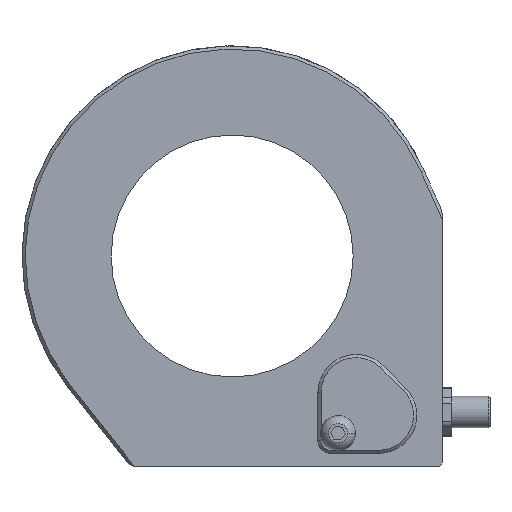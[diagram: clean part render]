
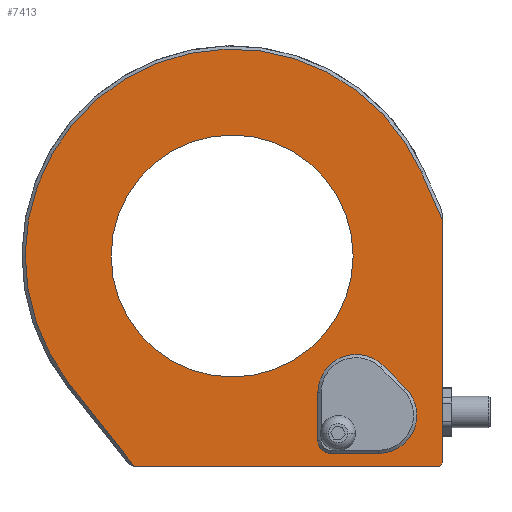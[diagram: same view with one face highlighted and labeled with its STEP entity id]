
A CAD part, left-side view. The second image highlights one B-rep face of the part: STEP entity #7413.
In plain terms, the highlighted planar face has unit normal (-1, 0, 0).
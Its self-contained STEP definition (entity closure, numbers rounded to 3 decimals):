
#92 = CARTESIAN_POINT ( 'NONE',  ( 21.697, -16.411, -31.812 ) ) ;
#102 = DIRECTION ( 'NONE',  ( 0., 0., -1. ) ) ;
#103 = VECTOR ( 'NONE', #102, 1000. ) ;
#104 = CARTESIAN_POINT ( 'NONE',  ( 21.697, -32.775, -7.52 ) ) ;
#105 = LINE ( 'NONE', #104, #103 ) ;
#135 = CARTESIAN_POINT ( 'NONE',  ( 21.697, -32.775, -1.752 ) ) ;
#136 = DIRECTION ( 'NONE',  ( 0., -0.406, -0.914 ) ) ;
#137 = VECTOR ( 'NONE', #136, 1000. ) ;
#138 = CARTESIAN_POINT ( 'NONE',  ( 21.697, -29.476, 5.674 ) ) ;
#139 = LINE ( 'NONE', #138, #137 ) ;
#140 = CARTESIAN_POINT ( 'NONE',  ( 21.697, -29.476, 5.674 ) ) ;
#185 = CARTESIAN_POINT ( 'NONE',  ( 21.697, 25.742, -27.648 ) ) ;
#186 = DIRECTION ( 'NONE',  ( 0., 0.619, 0.785 ) ) ;
#187 = VECTOR ( 'NONE', #186, 1000. ) ;
#208 = CARTESIAN_POINT ( 'NONE',  ( 21.697, 15.588, -40.52 ) ) ;
#209 = LINE ( 'NONE', #208, #187 ) ;
#224 = DIRECTION ( 'NONE',  ( 0., 1., 0. ) ) ;
#225 = DIRECTION ( 'NONE',  ( -1., 0., 0. ) ) ;
#226 = CARTESIAN_POINT ( 'NONE',  ( 21.697, -19.24, -28.984 ) ) ;
#227 = AXIS2_PLACEMENT_3D ( 'NONE', #226, #225, #224 ) ;
#233 = CIRCLE ( 'NONE', #227, 4. ) ;
#246 = DIRECTION ( 'NONE',  ( 0., 0., -1. ) ) ;
#247 = DIRECTION ( 'NONE',  ( 1., 0., 0. ) ) ;
#248 = CARTESIAN_POINT ( 'NONE',  ( 21.697, 0.225, -7.52 ) ) ;
#249 = AXIS2_PLACEMENT_3D ( 'NONE', #248, #247, #246 ) ;
#305 = CIRCLE ( 'NONE', #249, 32.5 ) ;
#400 = FACE_BOUND ( 'NONE', #7519, .T. ) ;
#401 = FACE_BOUND ( 'NONE', #7408, .T. ) ;
#402 = FACE_OUTER_BOUND ( 'NONE', #7542, .T. ) ;
#447 = DIRECTION ( 'NONE',  ( 0., 1., 0. ) ) ;
#448 = DIRECTION ( 'NONE',  ( 1., 0., 0. ) ) ;
#449 = CARTESIAN_POINT ( 'NONE',  ( 21.697, 0.225, -7.52 ) ) ;
#450 = AXIS2_PLACEMENT_3D ( 'NONE', #449, #448, #447 ) ;
#452 = PLANE ( 'NONE',  #450 ) ;
#542 = FACE_BOUND ( 'NONE', #7541, .T. ) ;
#1003 = DIRECTION ( 'NONE',  ( 0., 1., 0. ) ) ;
#1004 = VECTOR ( 'NONE', #1003, 1000. ) ;
#1005 = CARTESIAN_POINT ( 'NONE',  ( 21.697, 0.225, -40.52 ) ) ;
#1006 = LINE ( 'NONE', #1005, #1004 ) ;
#1143 = CARTESIAN_POINT ( 'NONE',  ( 21.697, 15.588, -40.52 ) ) ;
#1627 = DIRECTION ( 'NONE',  ( 0., -1., 0. ) ) ;
#1628 = DIRECTION ( 'NONE',  ( -1., 0., 0. ) ) ;
#1629 = CARTESIAN_POINT ( 'NONE',  ( 21.697, -16.411, -35.348 ) ) ;
#1630 = AXIS2_PLACEMENT_3D ( 'NONE', #1629, #1628, #1627 ) ;
#1631 = CIRCLE ( 'NONE', #1630, 1.23 ) ;
#1683 = DIRECTION ( 'NONE',  ( 0., 0., -1. ) ) ;
#1684 = DIRECTION ( 'NONE',  ( -1., 0., 0. ) ) ;
#1685 = CARTESIAN_POINT ( 'NONE',  ( 21.697, 0.225, -7.52 ) ) ;
#1686 = AXIS2_PLACEMENT_3D ( 'NONE', #1685, #1684, #1683 ) ;
#1687 = CIRCLE ( 'NONE', #1686, 19. ) ;
#3708 = CARTESIAN_POINT ( 'NONE',  ( 21.697, -15.24, -28.984 ) ) ;
#3709 = CARTESIAN_POINT ( 'NONE',  ( 21.697, -22.068, -26.156 ) ) ;
#3710 = DIRECTION ( 'NONE',  ( 0., 1., 0. ) ) ;
#3711 = DIRECTION ( 'NONE',  ( -1., 0., 0. ) ) ;
#3712 = CARTESIAN_POINT ( 'NONE',  ( 21.697, -19.24, -28.984 ) ) ;
#3713 = AXIS2_PLACEMENT_3D ( 'NONE', #3712, #3711, #3710 ) ;
#3718 = CIRCLE ( 'NONE', #3713, 4. ) ;
#4445 = DIRECTION ( 'NONE',  ( 0., -1., 0. ) ) ;
#4446 = DIRECTION ( 'NONE',  ( -1., 0., 0. ) ) ;
#4447 = CARTESIAN_POINT ( 'NONE',  ( 21.697, -16.411, -35.348 ) ) ;
#4448 = AXIS2_PLACEMENT_3D ( 'NONE', #4447, #4446, #4445 ) ;
#4449 = CIRCLE ( 'NONE', #4448, 1.23 ) ;
#4655 = CARTESIAN_POINT ( 'NONE',  ( 21.697, -15.181, -35.348 ) ) ;
#4821 = DIRECTION ( 'NONE',  ( 0., 0., -1. ) ) ;
#4822 = DIRECTION ( 'NONE',  ( -1., 0., 0. ) ) ;
#4823 = CARTESIAN_POINT ( 'NONE',  ( 21.697, 0.225, -7.52 ) ) ;
#4824 = AXIS2_PLACEMENT_3D ( 'NONE', #4823, #4822, #4821 ) ;
#4825 = CIRCLE ( 'NONE', #4824, 19. ) ;
#4849 = CARTESIAN_POINT ( 'NONE',  ( 21.697, -17.64, -35.348 ) ) ;
#5065 = CARTESIAN_POINT ( 'NONE',  ( 21.697, 0.225, 11.48 ) ) ;
#5140 = VERTEX_POINT ( 'NONE', #7888 ) ;
#5175 = EDGE_CURVE ( 'NONE', #5176, #5140, #8006, .T. ) ;
#5176 = VERTEX_POINT ( 'NONE', #8002 ) ;
#6252 = EDGE_CURVE ( 'NONE', #6253, #6254, #3718, .T. ) ;
#6253 = VERTEX_POINT ( 'NONE', #3709 ) ;
#6254 = VERTEX_POINT ( 'NONE', #3708 ) ;
#6502 = EDGE_CURVE ( 'NONE', #6560, #6561, #4449, .T. ) ;
#6560 = VERTEX_POINT ( 'NONE', #4655 ) ;
#6561 = VERTEX_POINT ( 'NONE', #4849 ) ;
#6574 = EDGE_CURVE ( 'NONE', #6696, #6625, #4825, .T. ) ;
#6625 = VERTEX_POINT ( 'NONE', #5065 ) ;
#6696 = VERTEX_POINT ( 'NONE', #10124 ) ;
#7002 = VERTEX_POINT ( 'NONE', #1143 ) ;
#7008 = EDGE_CURVE ( 'NONE', #5176, #7002, #1006, .T. ) ;
#7243 = EDGE_CURVE ( 'NONE', #6561, #6560, #1631, .T. ) ;
#7248 = EDGE_CURVE ( 'NONE', #6625, #6696, #1687, .T. ) ;
#7302 = VERTEX_POINT ( 'NONE', #140 ) ;
#7304 = EDGE_CURVE ( 'NONE', #7302, #7305, #139, .T. ) ;
#7305 = VERTEX_POINT ( 'NONE', #135 ) ;
#7322 = EDGE_CURVE ( 'NONE', #7305, #5140, #105, .T. ) ;
#7337 = VERTEX_POINT ( 'NONE', #92 ) ;
#7345 = EDGE_CURVE ( 'NONE', #7002, #7346, #209, .T. ) ;
#7346 = VERTEX_POINT ( 'NONE', #185 ) ;
#7357 = EDGE_CURVE ( 'NONE', #7346, #7302, #305, .T. ) ;
#7383 = EDGE_CURVE ( 'NONE', #6254, #7337, #233, .T. ) ;
#7390 = ORIENTED_EDGE ( 'NONE', *, *, #7322, .F. ) ;
#7398 = ORIENTED_EDGE ( 'NONE', *, *, #7345, .F. ) ;
#7399 = ORIENTED_EDGE ( 'NONE', *, *, #6574, .F. ) ;
#7400 = ORIENTED_EDGE ( 'NONE', *, *, #7248, .F. ) ;
#7407 = ORIENTED_EDGE ( 'NONE', *, *, #7304, .F. ) ;
#7408 = EDGE_LOOP ( 'NONE', ( #7399, #7400 ) ) ;
#7409 = ORIENTED_EDGE ( 'NONE', *, *, #7537, .F. ) ;
#7410 = ORIENTED_EDGE ( 'NONE', *, *, #7453, .F. ) ;
#7412 = ORIENTED_EDGE ( 'NONE', *, *, #6252, .F. ) ;
#7413 = ADVANCED_FACE ( 'NONE', ( #542, #402, #401, #400 ), #452, .F. ) ;
#7433 = ORIENTED_EDGE ( 'NONE', *, *, #7357, .F. ) ;
#7434 = ORIENTED_EDGE ( 'NONE', *, *, #7243, .F. ) ;
#7435 = ORIENTED_EDGE ( 'NONE', *, *, #6502, .F. ) ;
#7453 = EDGE_CURVE ( 'NONE', #7337, #7474, #10429, .T. ) ;
#7474 = VERTEX_POINT ( 'NONE', #10524 ) ;
#7476 = ORIENTED_EDGE ( 'NONE', *, *, #7008, .F. ) ;
#7494 = ORIENTED_EDGE ( 'NONE', *, *, #5175, .T. ) ;
#7502 = VERTEX_POINT ( 'NONE', #10386 ) ;
#7519 = EDGE_LOOP ( 'NONE', ( #7434, #7435 ) ) ;
#7537 = EDGE_CURVE ( 'NONE', #7474, #7502, #10299, .T. ) ;
#7541 = EDGE_LOOP ( 'NONE', ( #7543, #7409, #7410, #7544, #7412 ) ) ;
#7542 = EDGE_LOOP ( 'NONE', ( #7398, #7476, #7494, #7390, #7407, #7433 ) ) ;
#7543 = ORIENTED_EDGE ( 'NONE', *, *, #7546, .F. ) ;
#7544 = ORIENTED_EDGE ( 'NONE', *, *, #7383, .F. ) ;
#7546 = EDGE_CURVE ( 'NONE', #7502, #6253, #10290, .T. ) ;
#7888 = CARTESIAN_POINT ( 'NONE',  ( 21.697, -32.775, -40.02 ) ) ;
#8002 = CARTESIAN_POINT ( 'NONE',  ( 21.697, -32.275, -40.52 ) ) ;
#8003 = DIRECTION ( 'NONE',  ( 0., -0.707, 0.707 ) ) ;
#8004 = VECTOR ( 'NONE', #8003, 1000. ) ;
#8005 = CARTESIAN_POINT ( 'NONE',  ( 21.697, -32.275, -40.52 ) ) ;
#8006 = LINE ( 'NONE', #8005, #8004 ) ;
#10124 = CARTESIAN_POINT ( 'NONE',  ( 21.697, 0.225, -26.52 ) ) ;
#10287 = DIRECTION ( 'NONE',  ( 0., 0.707, 0.707 ) ) ;
#10288 = VECTOR ( 'NONE', #10287, 1000. ) ;
#10289 = CARTESIAN_POINT ( 'NONE',  ( 21.697, -25.604, -29.692 ) ) ;
#10290 = LINE ( 'NONE', #10289, #10288 ) ;
#10291 = DIRECTION ( 'NONE',  ( 0., 1., 0. ) ) ;
#10292 = DIRECTION ( 'NONE',  ( -1., 0., 0. ) ) ;
#10293 = CARTESIAN_POINT ( 'NONE',  ( 21.697, -22.775, -32.52 ) ) ;
#10294 = AXIS2_PLACEMENT_3D ( 'NONE', #10293, #10292, #10291 ) ;
#10299 = CIRCLE ( 'NONE', #10294, 4. ) ;
#10386 = CARTESIAN_POINT ( 'NONE',  ( 21.697, -25.604, -29.692 ) ) ;
#10428 = DIRECTION ( 'NONE',  ( 0., -0.707, -0.707 ) ) ;
#10429 = LINE ( 'NONE', #10430, #10562 ) ;
#10430 = CARTESIAN_POINT ( 'NONE',  ( 21.697, -16.411, -31.812 ) ) ;
#10524 = CARTESIAN_POINT ( 'NONE',  ( 21.697, -19.946, -35.348 ) ) ;
#10562 = VECTOR ( 'NONE', #10428, 1000. ) ;
